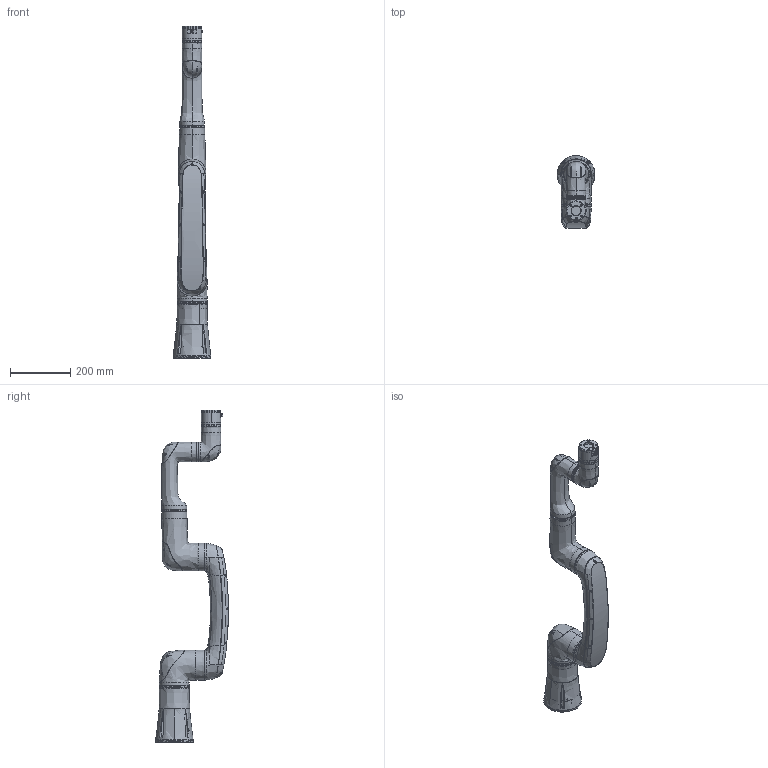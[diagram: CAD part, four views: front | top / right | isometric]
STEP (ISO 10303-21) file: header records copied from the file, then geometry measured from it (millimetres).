
FILE_DESCRIPTION (( 'STEP AP214' ), '1' );
FILE_NAME ('LS5潠眢耀倰.STEP', '2026-01-09T06:47:32', ( '' ), ( '' ), 'SwSTEP 2.0', 'SolidWorks 2020', '' );
FILE_SCHEMA (( 'AUTOMOTIVE_DESIGN' ));
Length unit declared in the file: millimetre
Products named in the file (9): LS5-elbow; LS5-Base; LS5-J2; LS5-link2; LS5-link1; LS5-end; LS5-J6; LS5潠眢耀倰; LS5-J1
Assembly tree (8 placements, depth 2):
  LS5潠眢耀倰
    LS5-Base
    LS5-J1
    LS5-J2
    LS5-link1
    LS5-elbow
    LS5-link2
    LS5-J6
    LS5-end
Bounding box: 125.42 x 243.29 x 1106.5 mm (x, y, z)
Volume: 7542092.6 mm3; surface area: 709060.7 mm2
Topology: 50 solids, 54 shells, 2228 faces, 5219 edges, 3230 vertices
Faces by surface type: plane 906, cylinder 539, bspline 436, cone 240, torus 78, sphere 29
Entity records: 161640 total; most frequent: CARTESIAN_POINT 90711, ORIENTED_EDGE 10162, DIRECTION 9255, EDGE_CURVE 5081, AXIS2_PLACEMENT_3D 3605, VERTEX_POINT 3201, EDGE_LOOP 2526, ADVANCED_FACE 2227
